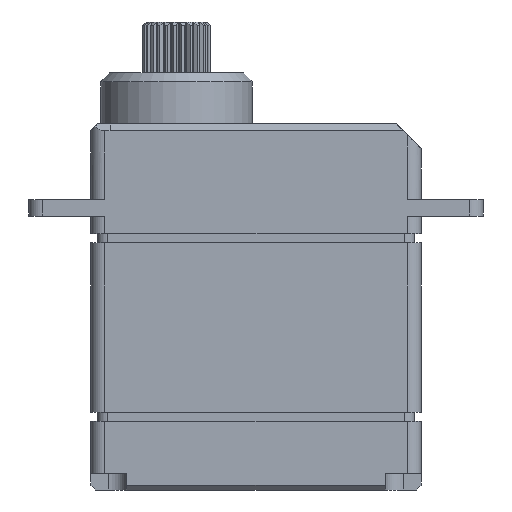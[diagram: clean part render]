
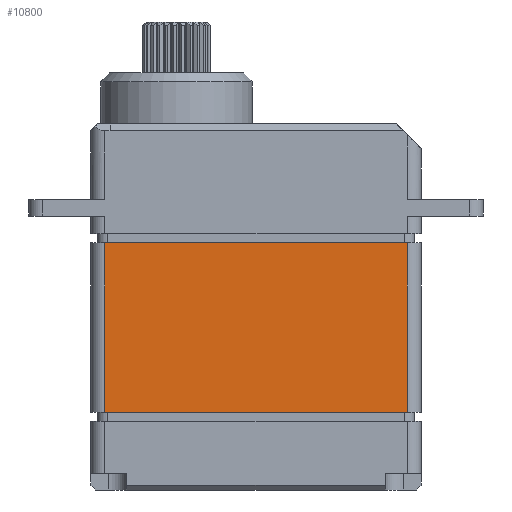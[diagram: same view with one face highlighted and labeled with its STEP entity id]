
A CAD part, front view. The second image highlights one B-rep face of the part: STEP entity #10800.
In plain terms, the highlighted planar face has unit normal (0, -1, 0).
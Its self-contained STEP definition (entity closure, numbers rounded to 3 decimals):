
#181 = ORIENTED_EDGE ( 'NONE', *, *, #9047, .T. ) ;
#182 = EDGE_CURVE ( 'NONE', #4363, #10804, #12454, .T. ) ;
#615 = DIRECTION ( 'NONE',  ( 1., 0., 0. ) ) ;
#1295 = CARTESIAN_POINT ( 'NONE',  ( -87.267, -18.972, -8. ) ) ;
#1917 = DIRECTION ( 'NONE',  ( 0., 0., -1. ) ) ;
#2199 = ORIENTED_EDGE ( 'NONE', *, *, #10712, .F. ) ;
#2219 = LINE ( 'NONE', #10044, #4483 ) ;
#3846 = VECTOR ( 'NONE', #9848, 1000. ) ;
#3901 = CARTESIAN_POINT ( 'NONE',  ( -87.267, -18.972, 5.25 ) ) ;
#3910 = ORIENTED_EDGE ( 'NONE', *, *, #182, .T. ) ;
#4013 = EDGE_CURVE ( 'NONE', #10804, #7505, #9610, .T. ) ;
#4239 = VECTOR ( 'NONE', #1917, 1000. ) ;
#4356 = VERTEX_POINT ( 'NONE', #12700 ) ;
#4363 = VERTEX_POINT ( 'NONE', #1295 ) ;
#4483 = VECTOR ( 'NONE', #615, 1000. ) ;
#5150 = FACE_OUTER_BOUND ( 'NONE', #12153, .T. ) ;
#5844 = CARTESIAN_POINT ( 'NONE',  ( -65.267, -18.972, 4.3 ) ) ;
#5885 = DIRECTION ( 'NONE',  ( 0., 0., 1. ) ) ;
#6992 = LINE ( 'NONE', #3901, #4239 ) ;
#7135 = AXIS2_PLACEMENT_3D ( 'NONE', #9155, #8050, #9119 ) ;
#7505 = VERTEX_POINT ( 'NONE', #5844 ) ;
#8050 = DIRECTION ( 'NONE',  ( 0., -1., 0. ) ) ;
#8102 = PLANE ( 'NONE',  #7135 ) ;
#8176 = VECTOR ( 'NONE', #5885, 1000. ) ;
#9047 = EDGE_CURVE ( 'NONE', #4356, #4363, #6992, .T. ) ;
#9119 = DIRECTION ( 'NONE',  ( 0., 0., -1. ) ) ;
#9155 = CARTESIAN_POINT ( 'NONE',  ( -64.867, -18.972, 5.25 ) ) ;
#9610 = LINE ( 'NONE', #11933, #8176 ) ;
#9848 = DIRECTION ( 'NONE',  ( 1., 0., 0. ) ) ;
#10044 = CARTESIAN_POINT ( 'NONE',  ( -87.267, -18.972, 4.3 ) ) ;
#10174 = CARTESIAN_POINT ( 'NONE',  ( -65.267, -18.972, -8. ) ) ;
#10689 = ORIENTED_EDGE ( 'NONE', *, *, #4013, .T. ) ;
#10712 = EDGE_CURVE ( 'NONE', #4356, #7505, #2219, .T. ) ;
#10800 = ADVANCED_FACE ( 'NONE', ( #5150 ), #8102, .T. ) ;
#10804 = VERTEX_POINT ( 'NONE', #10174 ) ;
#10933 = CARTESIAN_POINT ( 'NONE',  ( -76.367, -18.972, -8. ) ) ;
#11933 = CARTESIAN_POINT ( 'NONE',  ( -65.267, -18.972, 5.25 ) ) ;
#12153 = EDGE_LOOP ( 'NONE', ( #10689, #2199, #181, #3910 ) ) ;
#12454 = LINE ( 'NONE', #10933, #3846 ) ;
#12700 = CARTESIAN_POINT ( 'NONE',  ( -87.267, -18.972, 4.3 ) ) ;
